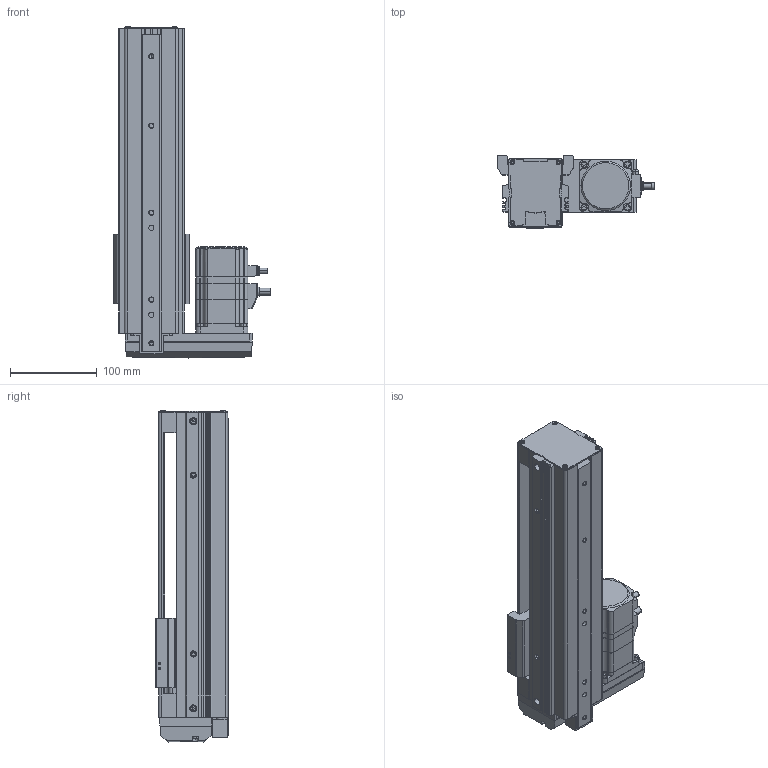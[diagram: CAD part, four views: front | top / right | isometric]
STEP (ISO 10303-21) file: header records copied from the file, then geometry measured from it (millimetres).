
FILE_DESCRIPTION (( 'STEP AP203' ), '1' );
FILE_NAME ('EASM6LXD020ARMC.step', '2013-10-11T01:15:30', ( 'om' ), ( 'Hewlett-Packard Company' ), 'SwSTEP 2.0', 'SolidWorks 2011', '' );
FILE_SCHEMA (( 'CONFIG_CONTROL_DESIGN' ));
Length unit declared in the file: millimetre
Products named in the file (4): EASM6LXD020ARMC; EASM6LXD020ARMC_Table; EASM6LXD020ARMC_BASE; EASM6LXD020ARMC_Motor
Assembly tree (3 placements, depth 2):
  EASM6LXD020ARMC
    EASM6LXD020ARMC_BASE
    EASM6LXD020ARMC_Table
    EASM6LXD020ARMC_Motor
Bounding box: 180.5 x 83 x 382.13 mm (x, y, z)
Volume: 1550787.9 mm3; surface area: 345891.4 mm2
Topology: 3 solids, 15 shells, 1187 faces, 3110 edges, 2030 vertices
Faces by surface type: plane 701, cylinder 408, cone 48, torus 24, bspline 6
Entity records: 37322 total; most frequent: CARTESIAN_POINT 6967, DIRECTION 6274, ORIENTED_EDGE 6184, EDGE_CURVE 3092, LINE 2128, VECTOR 2128, AXIS2_PLACEMENT_3D 2073, VERTEX_POINT 2030
